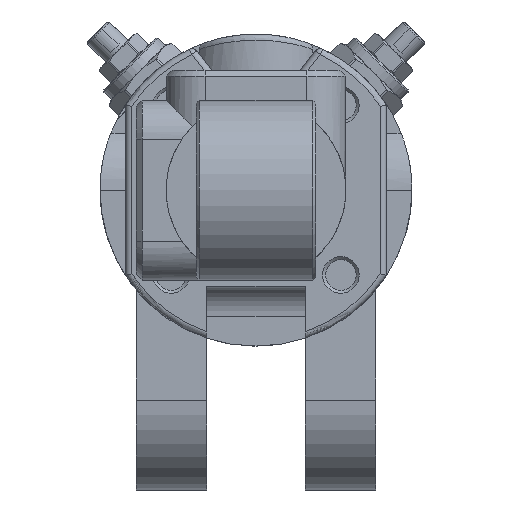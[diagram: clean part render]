
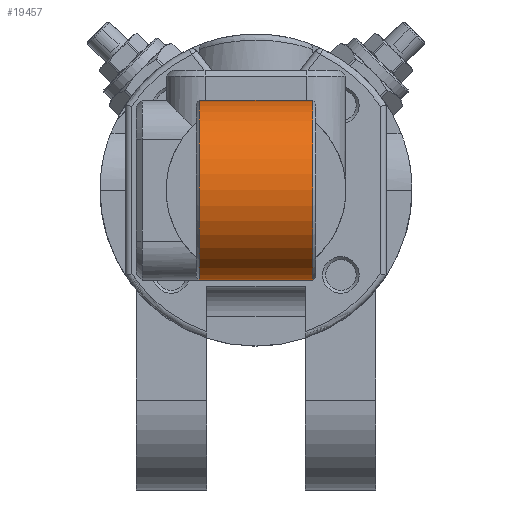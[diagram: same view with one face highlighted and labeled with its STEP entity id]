
A CAD part, front view. The second image highlights one B-rep face of the part: STEP entity #19457.
In plain terms, the highlighted cylindrical face has radius 15 mm (diameter 30 mm), a full revolution.
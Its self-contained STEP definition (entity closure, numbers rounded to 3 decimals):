
#19370=CARTESIAN_POINT('',(9.5,-53.5,0.));
#19371=VERTEX_POINT('',#19370);
#19372=CARTESIAN_POINT('',(9.5,-68.5,0.0));
#19373=DIRECTION('',(1.0,0.0,0.0));
#19374=DIRECTION('',(0.0,-1.0,0.0));
#19375=AXIS2_PLACEMENT_3D('',#19372,#19373,#19374);
#19376=CIRCLE('',#19375,15.0);
#19377=EDGE_CURVE('',#19371,#19371,#19376,.T.);
#19382=CARTESIAN_POINT('',(0.0,-68.5,0.0));
#19383=DIRECTION('',(1.0,0.0,0.0));
#19384=DIRECTION('',(0.0,-1.0,0.0));
#19385=AXIS2_PLACEMENT_3D('',#19382,#19383,#19384);
#19386=CYLINDRICAL_SURFACE('',#19385,15.0);
#19387=CARTESIAN_POINT('',(-9.5,-53.5,0.));
#19388=VERTEX_POINT('',#19387);
#19389=CARTESIAN_POINT('',(-9.5,-68.5,0.0));
#19390=DIRECTION('',(-1.0,0.0,0.0));
#19391=DIRECTION('',(0.0,-1.0,0.0));
#19392=AXIS2_PLACEMENT_3D('',#19389,#19390,#19391);
#19393=CIRCLE('',#19392,15.0);
#19394=EDGE_CURVE('',#19388,#19388,#19393,.T.);
#19395=ORIENTED_EDGE('',*,*,#19394,.F.);
#19396=EDGE_LOOP('',(#19395));
#19397=FACE_OUTER_BOUND('',#19396,.T.);
#19398=CARTESIAN_POINT('',(-9.,-59.5,-12.));
#19399=VERTEX_POINT('',#19398);
#19400=CARTESIAN_POINT('',(-9.0,-59.5,12.));
#19401=VERTEX_POINT('',#19400);
#19402=CARTESIAN_POINT('',(-9.0,-68.5,0.0));
#19403=DIRECTION('',(1.0,0.0,0.0));
#19404=DIRECTION('',(0.0,-1.0,0.0));
#19405=AXIS2_PLACEMENT_3D('',#19402,#19403,#19404);
#19406=CIRCLE('',#19405,15.0);
#19407=EDGE_CURVE('',#19399,#19401,#19406,.T.);
#19408=ORIENTED_EDGE('',*,*,#19407,.F.);
#19409=CARTESIAN_POINT('',(0.0,-68.5,-15.));
#19410=VERTEX_POINT('',#19409);
#19411=CARTESIAN_POINT('',(0.0,-68.5,0.0));
#19412=DIRECTION('',(0.707,0.707,0.0));
#19413=DIRECTION('',(0.707,-0.707,0.0));
#19414=AXIS2_PLACEMENT_3D('',#19411,#19412,#19413);
#19415=ELLIPSE('',#19414,21.213,15.);
#19416=EDGE_CURVE('',#19410,#19399,#19415,.T.);
#19417=ORIENTED_EDGE('',*,*,#19416,.F.);
#19418=CARTESIAN_POINT('',(9.0,-59.5,-12.));
#19419=VERTEX_POINT('',#19418);
#19420=CARTESIAN_POINT('',(0.0,-68.5,0.0));
#19421=DIRECTION('',(-0.707,0.707,0.0));
#19422=DIRECTION('',(-0.707,-0.707,0.0));
#19423=AXIS2_PLACEMENT_3D('',#19420,#19421,#19422);
#19424=ELLIPSE('',#19423,21.213,15.);
#19425=EDGE_CURVE('',#19419,#19410,#19424,.T.);
#19426=ORIENTED_EDGE('',*,*,#19425,.F.);
#19427=CARTESIAN_POINT('',(9.,-59.5,12.));
#19428=VERTEX_POINT('',#19427);
#19429=CARTESIAN_POINT('',(9.,-68.5,0.0));
#19430=DIRECTION('',(-1.0,0.0,0.0));
#19431=DIRECTION('',(0.0,-1.0,0.0));
#19432=AXIS2_PLACEMENT_3D('',#19429,#19430,#19431);
#19433=CIRCLE('',#19432,15.0);
#19434=EDGE_CURVE('',#19428,#19419,#19433,.T.);
#19435=ORIENTED_EDGE('',*,*,#19434,.F.);
#19436=CARTESIAN_POINT('',(0.0,-68.5,15.));
#19437=VERTEX_POINT('',#19436);
#19438=CARTESIAN_POINT('',(0.0,-68.5,0.0));
#19439=DIRECTION('',(-0.707,0.707,0.0));
#19440=DIRECTION('',(-0.707,-0.707,0.0));
#19441=AXIS2_PLACEMENT_3D('',#19438,#19439,#19440);
#19442=ELLIPSE('',#19441,21.213,15.);
#19443=EDGE_CURVE('',#19437,#19428,#19442,.T.);
#19444=ORIENTED_EDGE('',*,*,#19443,.F.);
#19445=CARTESIAN_POINT('',(0.0,-68.5,0.0));
#19446=DIRECTION('',(0.707,0.707,0.0));
#19447=DIRECTION('',(0.707,-0.707,0.0));
#19448=AXIS2_PLACEMENT_3D('',#19445,#19446,#19447);
#19449=ELLIPSE('',#19448,21.213,15.);
#19450=EDGE_CURVE('',#19401,#19437,#19449,.T.);
#19451=ORIENTED_EDGE('',*,*,#19450,.F.);
#19452=EDGE_LOOP('',(#19408,#19417,#19426,#19435,#19444,#19451));
#19453=FACE_BOUND('',#19452,.T.);
#19454=ORIENTED_EDGE('',*,*,#19377,.F.);
#19455=EDGE_LOOP('',(#19454));
#19456=FACE_BOUND('',#19455,.T.);
#19457=ADVANCED_FACE('',(#19397,#19453,#19456),#19386,.T.);
